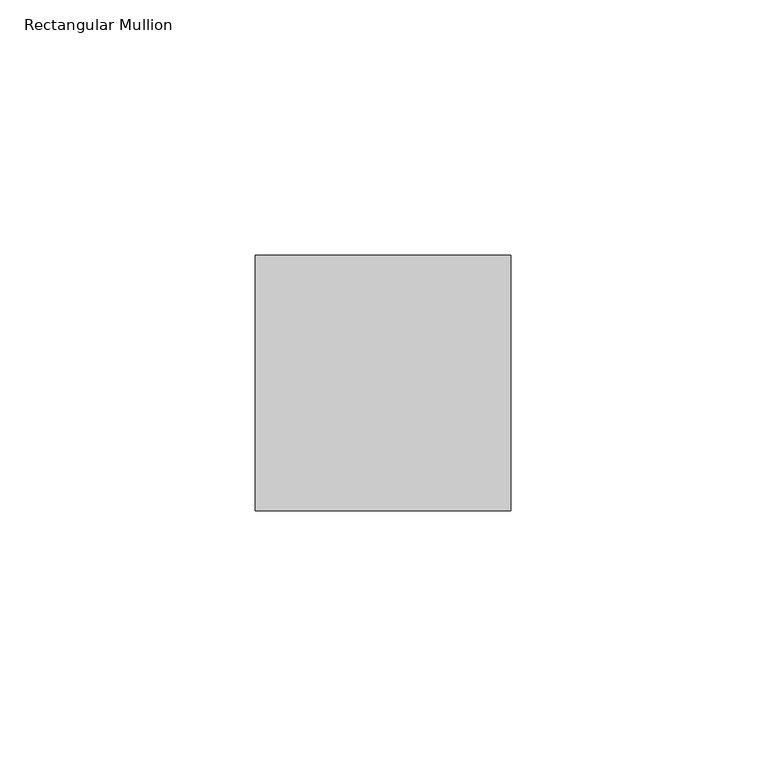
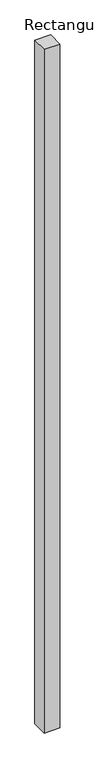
"""IFC4 building model written with IfcOpenShell, lengths in millimetres: member geometry, Rectangular Mullion : Mullion_Curtain Wall_Generic Showcase_50x50mm."""

from ifc_helpers import new_model, si_unit, frame, origin, place, context, project, spatial, polyline, outline, extrude, source, transform, mapped, element, save


def rectangular_mullion_18d90422(model_context):
    return source(origin(), model_context, "Body", "SweptSolid", [
        extrude(outline(polyline([(0.0, 0.0), (0.0, -50.0), (-50.0, -50.0), (-50.0, 0.0), (0.0, 0.0)])), frame((0.0, 0.0, -2275.0), z_axis=(0.0, 0.0, 1.0), x_axis=(1.0, 0.0, 0.0)), (0.0, 0.0, 1.0), 2275.0),
    ])


if __name__ == "__main__":
    model = new_model("IFC4")
    model_context = context("Model", 3, world=origin())
    ifc_project = project(units=[si_unit("LENGTHUNIT", "METRE", prefix="MILLI")], contexts=[model_context])
    site = spatial("IfcSite", under=ifc_project)
    building = spatial("IfcBuilding", under=site)
    placement = place(None, origin())
    rectangular_mullion_shape = rectangular_mullion_18d90422(model_context)
    element("IfcMember", 1, ObjectType="Rectangular Mullion : Mullion_Curtain Wall_Generic Showcase_50x50mm", at=placement, inside=building, context=model_context, shape_type="MappedRepresentation", body=[
        mapped(rectangular_mullion_shape, transform((0.0, 0.0, 0.0), x_axis=(1.0, 0.0, 0.0), y_axis=(0.0, 1.0, 0.0), z_axis=(0.0, 0.0, 1.0))),
    ])
    save(model, "model.ifc")
